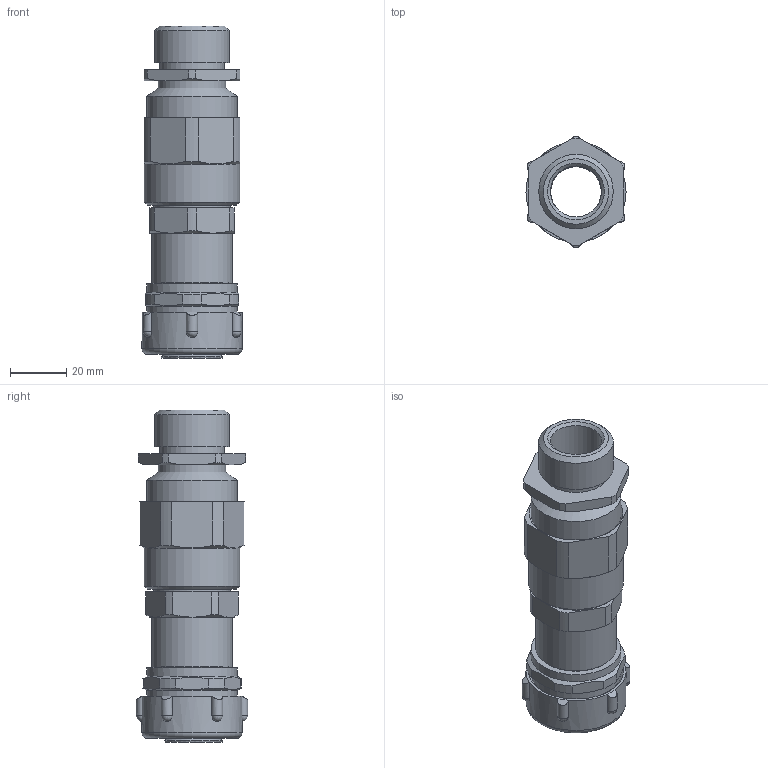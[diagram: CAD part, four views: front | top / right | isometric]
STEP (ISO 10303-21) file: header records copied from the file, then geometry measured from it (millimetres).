
FILE_DESCRIPTION (( 'STEP AP203' ), '1' );
FILE_NAME ('ﾊﾎﾂﾒﾂﾋ2GHK_ﾐ_ﾐﾊﾍ20..STEP', '2024-07-24T12:10:26', ( '' ), ( '' ), 'SwSTEP 2.0', 'SolidWorks 2018', '' );
FILE_SCHEMA (( 'CONFIG_CONTROL_DESIGN' ));
Length unit declared in the file: millimetre
Products named in the file (1): ﾊﾎﾂﾒﾂﾋ2GHK_ﾐ_ﾐﾊﾍ20.
Bounding box: 35.5 x 39.5 x 117.78 mm (x, y, z)
Volume: 35574.1 mm3; surface area: 31652.8 mm2
Topology: 1 solids, 3 shells, 160 faces, 386 edges, 244 vertices
Faces by surface type: cylinder 61, plane 50, cone 36, torus 7, sphere 6
Full cylindrical faces by diameter (mm): 17.9 x1, 18.1 x1, 18.7 x1, 22 x1, 23 x2, 24 x1, 24.117 x1, 25.376 x1, 26.441 x2, 26.5 x1, 26.8 x2, 27 x1, 27.5 x1, 27.6 x1, 28 x2, 28.6 x1, 29 x2, 30 x1, 30.376 x2, 32 x3, 33.8 x1, 35.5 x1
Entity records: 4771 total; most frequent: CARTESIAN_POINT 1349, DIRECTION 712, ORIENTED_EDGE 608, AXIS2_PLACEMENT_3D 313, EDGE_CURVE 304, EDGE_LOOP 236, VERTEX_POINT 220, FACE_OUTER_BOUND 195
